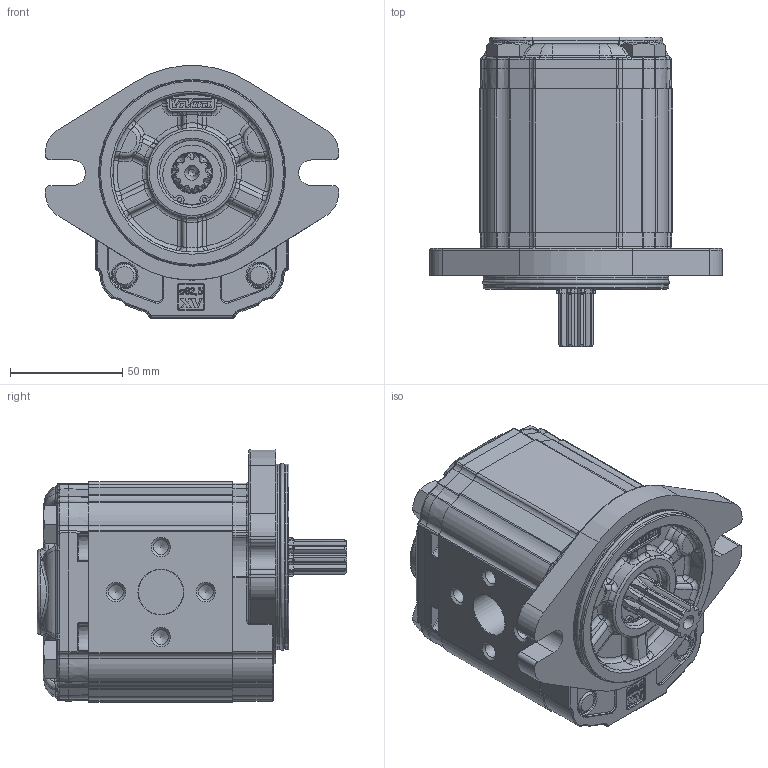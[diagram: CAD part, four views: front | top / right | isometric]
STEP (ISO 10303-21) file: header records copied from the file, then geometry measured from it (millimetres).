
FILE_DESCRIPTION(/* description */ ('Unknown'),/* implementation_level */ '2;1');
FILE_NAME(/* name */ 'X2U4951IPOA',/* time_stamp */ '2021-04-26T09:03:57+02:00',/* author */ ('Unknown'),/* organization */ ('Unknown'),/* preprocessor_version */ 'ST-DEVELOPER v16.7',/* originating_system */ 'Solid Edge',/* authorisation */ 'Unknown');
FILE_SCHEMA (('AUTOMOTIVE_DESIGN {1 0 10303 214 3 1 1}'));
Products named in the file (5): X2U4951IPOA; X2U51; 2I; X2POH64; XU219-A
Assembly tree (4 placements, depth 2):
  X2U4951IPOA
    X2U51
    2I
    X2POH64
    XU219-A
Bounding box: 130.38 x 137.7 x 112.3 mm (x, y, z)
Volume: 780964.6 mm3; surface area: 118787.3 mm2
Topology: 4 solids, 5 shells, 2230 faces, 5510 edges, 3347 vertices
Faces by surface type: cylinder 660, plane 592, bspline 537, torus 286, cone 117, sphere 38
Full cylindrical faces by diameter (mm): 2 x2, 4.917 x4, 6.647 x4, 10 x4, 10.5 x4, 11 x2, 11.5 x4, 13.5 x1, 16 x4, 17.42 x1, 18 x1, 20 x1, 20.595 x1, 23.332 x1, 25.834 x1, 28.5 x1, 28.56 x1, 28.57 x1, 28.8 x1, 30.4 x1, 79.6 x2, 82.5 x2
Entity records: 93010 total; most frequent: CARTESIAN_POINT 30285, ORIENTED_EDGE 10556, DIRECTION 8965, EDGE_CURVE 5278, AXIS2_PLACEMENT_3D 3437, VERTEX_POINT 3273, FACE_BOUND 2461, EDGE_LOOP 2452
